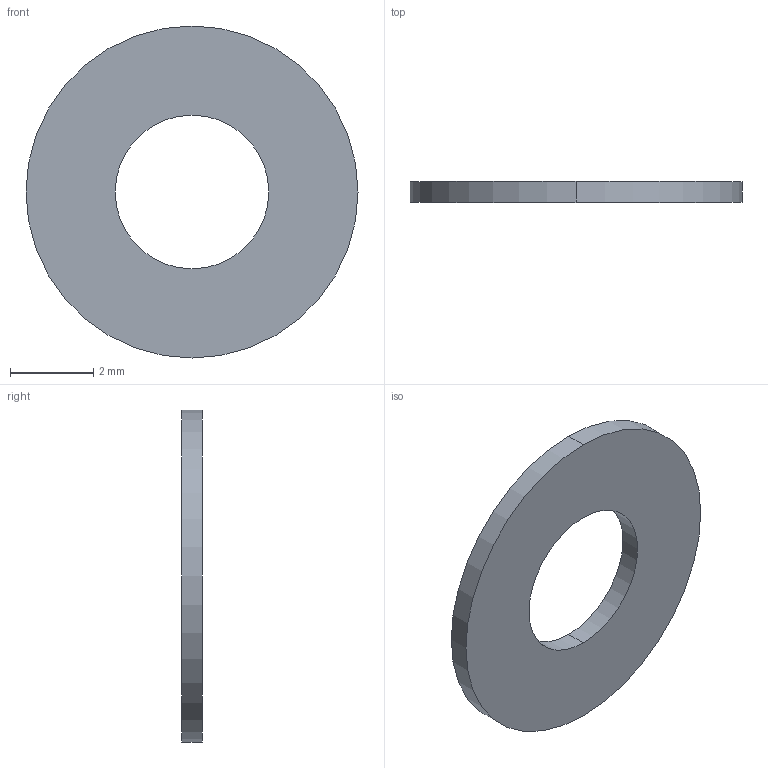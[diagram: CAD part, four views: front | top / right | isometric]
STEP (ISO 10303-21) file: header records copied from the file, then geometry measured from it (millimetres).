
FILE_DESCRIPTION (( 'STEP AP203' ), '1' );
FILE_NAME ('P0330.035-ZP.step', '2018-07-08T17:18:43', ( '' ), ( '' ), 'SwSTEP 2.0', 'SolidWorks 2017', '' );
FILE_SCHEMA (( 'CONFIG_CONTROL_DESIGN' ));
Length unit declared in the file: millimetre
Products named in the file (1): P0330.035-ZP
Bounding box: 8 x 0.5 x 8 mm (x, y, z)
Volume: 19.8 mm3; surface area: 97.4 mm2
Topology: 1 solids, 1 shells, 6 faces, 12 edges, 8 vertices
Faces by surface type: cylinder 4, plane 2
Entity records: 245 total; most frequent: DIRECTION 34, CARTESIAN_POINT 27, ORIENTED_EDGE 24, AXIS2_PLACEMENT_3D 15, EDGE_CURVE 12, PERSON_AND_ORGANIZATION 8, VERTEX_POINT 8, EDGE_LOOP 8
